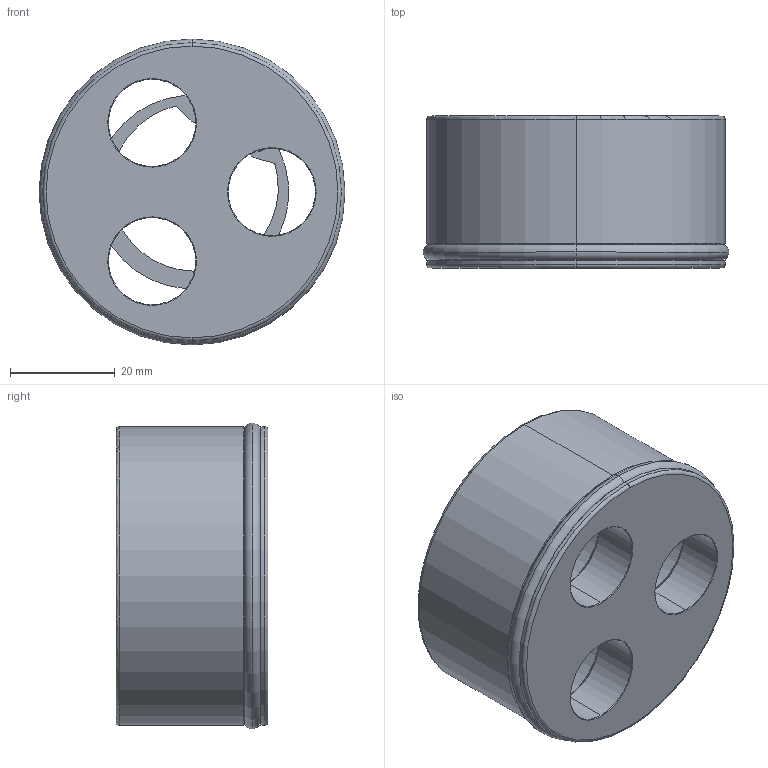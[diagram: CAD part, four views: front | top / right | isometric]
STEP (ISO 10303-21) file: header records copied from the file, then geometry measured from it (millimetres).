
FILE_DESCRIPTION (( 'STEP AP214' ), '1' );
FILE_NAME ('GK205-LockingCollar.STEP', '2020-05-01T16:16:47', ( '' ), ( '' ), 'SwSTEP 2.0', 'SolidWorks 2017', '' );
FILE_SCHEMA (( 'AUTOMOTIVE_DESIGN' ));
Length unit declared in the file: inch
Products named in the file (4): GK205-LockingCollar; Oring-70D-3.0mmCS-52mmID-58mmOD_Oring-70D-3.0mmCS-52mmID-58mmOD; RetainingRing-Internal-Standard-36mmBore_RetainingRing-Internal-Standard-36mmBore-xxx; GK205-LockingCollar_LockingCollar-GK205
Assembly tree (3 placements, depth 2):
  GK205-LockingCollar
    GK205-LockingCollar_LockingCollar-GK205
    RetainingRing-Internal-Standard-36mmBore_RetainingRing-Internal-Standard-36mmBore-xxx
    Oring-70D-3.0mmCS-52mmID-58mmOD_Oring-70D-3.0mmCS-52mmID-58mmOD
Bounding box: 58.4 x 29 x 58.4 mm (x, y, z)
Volume: 38946.6 mm3; surface area: 17501.5 mm2
Topology: 3 solids, 3 shells, 114 faces, 277 edges, 169 vertices
Faces by surface type: cylinder 37, cone 34, plane 22, torus 18, bspline 3
Entity records: 3655 total; most frequent: CARTESIAN_POINT 691, DIRECTION 651, ORIENTED_EDGE 554, AXIS2_PLACEMENT_3D 287, EDGE_CURVE 277, CIRCLE 170, VERTEX_POINT 169, EDGE_LOOP 126
